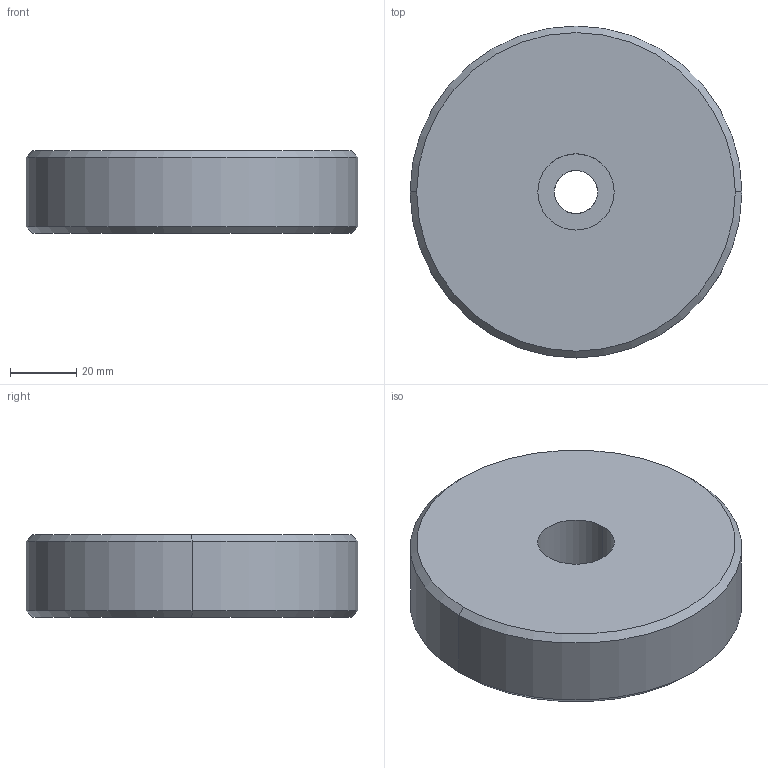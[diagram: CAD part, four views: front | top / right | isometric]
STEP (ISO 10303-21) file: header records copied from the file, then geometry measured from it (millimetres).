
FILE_DESCRIPTION(('CATIA V5 STEP Exchange'),'2;1');
FILE_NAME('C:\Users\Utente\Desktop\IO LAVORO\3D X SITO CF\X 3D SITO CF 27-09-2020\703\703.1.stp','2020-10-25T12:33:00+00:00',('none'),('none'),'CATIA Version 5 Release 20 GA (IN-10)','CATIA V5 STEP AP203','none');
FILE_SCHEMA(('CONFIG_CONTROL_DESIGN'));
Length unit declared in the file: millimetre
Products named in the file (1): 703.1
Bounding box: 100 x 100 x 25 mm (x, y, z)
Volume: 186702 mm3; surface area: 24136.5 mm2
Topology: 1 solids, 1 shells, 13 faces, 26 edges, 16 vertices
Faces by surface type: cylinder 6, cone 4, plane 3
Entity records: 416 total; most frequent: CARTESIAN_POINT 102, ORIENTED_EDGE 52, DIRECTION 50, AXIS2_PLACEMENT_3D 28, EDGE_CURVE 26, EDGE_LOOP 16, VERTEX_POINT 16, CIRCLE 14
